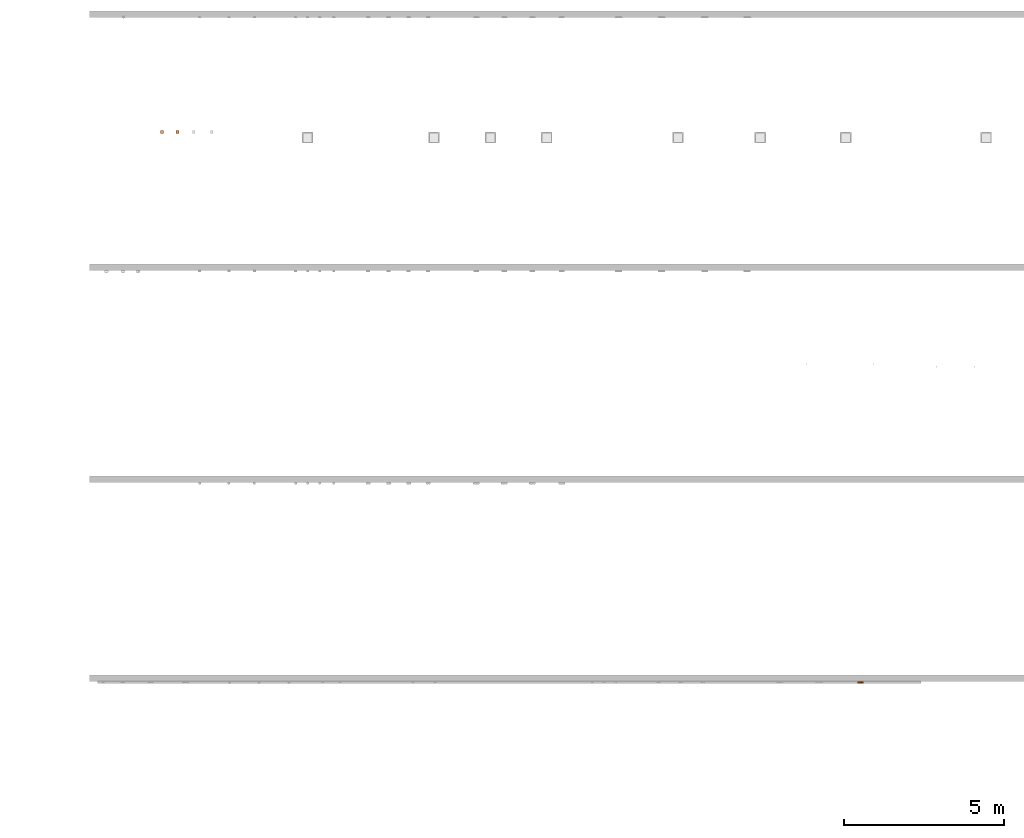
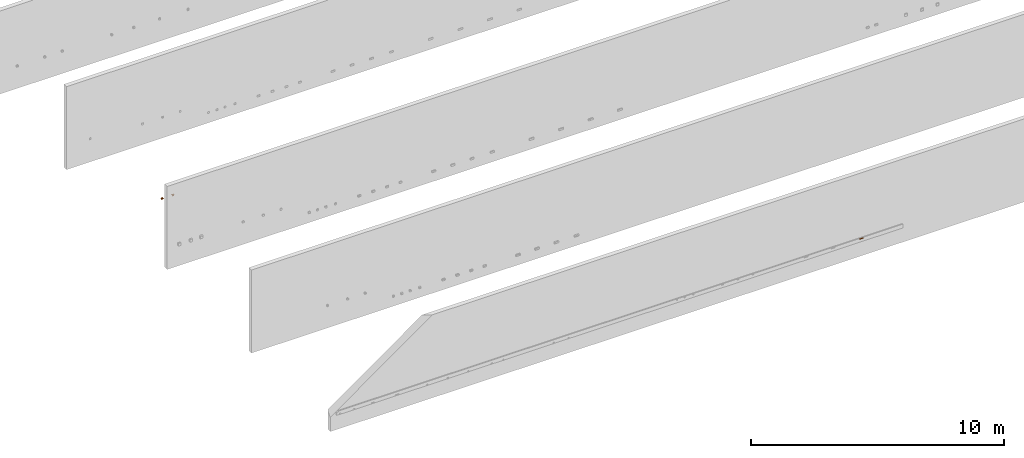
# One storey, part 69 of 197: 3 proxies.
"""IFC2X3 building model written with IfcOpenShell, lengths in metres."""

from ifc_helpers import new_model, entity, si_unit, converted_unit, direction, frame, frame_2d, origin, origin_2d_with_axis, place, context, subcontext, project, spatial, polyline, circle_curve, parameter, trimmed, segment, composite_curve, rectangle, circle, outline, extrude, source, transform, mapped, material, material_list, type_object, type_shapes, element, save


model = new_model("IFC2X3")

# Units and contexts
model_context = context("Model", 3, precision=1e-05, world=origin(), true_north=direction((6.123031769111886e-17, 1.0)))
body_context = subcontext(model_context, "Body", "Model", "MODEL_VIEW")
ifc_project = project(units=[si_unit("LENGTHUNIT", "METRE"), converted_unit("PLANEANGLEUNIT", "DEGREE", entity("IfcPlaneAngleMeasure", 0.017453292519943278), si_unit("PLANEANGLEUNIT", "RADIAN"), dimensions=[0, 0, 0, 0, 0, 0, 0]), si_unit("AREAUNIT", "SQUARE_METRE")], contexts=[model_context])

# Site, building, storey
site_placement = place(None, origin())
site = spatial("IfcSite", under=ifc_project, at=site_placement, Name="Default", CompositionType="ELEMENT")
building_placement = place(site_placement, origin())
building = spatial("IfcBuilding", under=site, at=building_placement, CompositionType="ELEMENT")
storey_placement = place(building_placement, origin())
storey = spatial("IfcBuildingStorey", under=building, at=storey_placement, Name="Niveau 0", CompositionType="ELEMENT", Elevation=0.0)

# Proxies
ifc_material_1 = material(Name="A-ENJOLIVEUR BLANC")
ifc_material_2 = material(Name="<Unnamed>")
ifc_material_list_1 = material_list([ifc_material_1, ifc_material_2])
building_element_proxy_type_1 = type_object("IfcBuildingElementProxyType", Name="Prise simple sol:PCN", PredefinedType="NOTDEFINED", material=ifc_material_list_1)
shared_shape_1 = source(origin(), body_context, "Body", "SweptSolid", [
    extrude(outline(polyline([(-0.043, -0.043000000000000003), (0.043, -0.043000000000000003), (0.043, 0.043000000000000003), (-0.043, 0.043000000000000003), (-0.043, -0.043000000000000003)]), holes=[composite_curve([segment(polyline([(0.0069999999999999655, -0.029499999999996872), (-0.00699999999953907, -0.029499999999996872)]), True, "CONTINUOUS"), segment(polyline([(-0.00699999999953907, -0.029499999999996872), (-0.0069999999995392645, -0.02569999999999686)]), True, "CONTINUOUS"), segment(trimmed(circle_curve(frame_2d((0.0012899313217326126, -0.0025999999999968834), x_axis=(-1.0, 0.0)), 0.024542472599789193), [parameter(289.7416150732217)], [parameter(70.25838492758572)], True, "PARAMETER"), False, "CONTINUOUS"), segment(trimmed(circle_curve(frame_2d((0.0, 0.014821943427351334), x_axis=(-1.0, 0.0)), 0.009013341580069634), [parameter(219.04726896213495)], [parameter(320.95273103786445)], True, "PARAMETER"), False, "CONTINUOUS"), segment(trimmed(circle_curve(frame_2d((-0.0012899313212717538, -0.0025999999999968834), x_axis=(-1.0, 0.0)), 0.024542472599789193), [parameter(109.74161507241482)], [parameter(250.25838492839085)], True, "PARAMETER"), False, "CONTINUOUS"), segment(polyline([(0.006999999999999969, -0.02569999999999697), (0.0069999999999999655, -0.029499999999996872)]), True, "CONTINUOUS")], self_intersect=False)]), frame((0.0, 0.0, 0.0), z_axis=(0.0, 0.0, 1.0), x_axis=(-1.0, 0.0, 0.0)), (0.0, 0.0, 1.0), 0.0006069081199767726),
    extrude(outline(composite_curve([segment(trimmed(circle_curve(frame_2d((0.0, -0.026531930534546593), x_axis=(1.0, 0.0)), 0.008013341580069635), [parameter(219.04726896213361)], [parameter(320.95273104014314)], True, "PARAMETER"), True, "CONTINUOUS"), segment(trimmed(circle_curve(frame_2d((-0.00219188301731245, -0.009080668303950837), x_axis=(1.0, 0.0)), 0.024021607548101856), [parameter(290.506906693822)], [parameter(73.82466715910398)], True, "PARAMETER"), True, "CONTINUOUS"), segment(polyline([(0.004499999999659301, 0.01399001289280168), (0.004499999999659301, 0.01759001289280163)]), True, "CONTINUOUS"), segment(polyline([(0.004499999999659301, 0.01759001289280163), (-0.004499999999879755, 0.01759001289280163)]), True, "CONTINUOUS"), segment(polyline([(-0.004499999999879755, 0.01759001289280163), (-0.0044999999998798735, 0.013990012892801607)]), True, "CONTINUOUS"), segment(trimmed(circle_curve(frame_2d((0.002191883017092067, -0.009080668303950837), x_axis=(1.0, 0.0)), 0.024021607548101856), [parameter(106.17533284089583)], [parameter(249.49309330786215)], True, "PARAMETER"), True, "CONTINUOUS")], self_intersect=False)), frame((0.0, 0.011709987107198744, 0.0)), (0.0, 0.0, 1.0), 0.0006069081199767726),
    extrude(rectangle(XDim=0.041, YDim=0.04100000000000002, at=origin_2d_with_axis()), frame((-0.0005084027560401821, 0.0, -0.0445295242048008), z_axis=(0.0, 0.0, 1.0), x_axis=(-1.0, 0.0, 0.0)), (0.0, 0.0, 1.0), 0.03553643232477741),
    extrude(outline(polyline([(-0.022500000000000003, -0.0225), (0.022500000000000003, -0.0225), (0.022500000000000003, 0.0225), (-0.0225, 0.0225), (-0.022500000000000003, -0.0225)]), holes=[composite_curve([segment(trimmed(circle_curve(origin_2d_with_axis(), 0.019799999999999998), [parameter(179.99999999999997)], [parameter(359.99999999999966)], True, "PARAMETER"), False, "CONTINUOUS"), segment(trimmed(circle_curve(origin_2d_with_axis(), 0.019799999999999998), [parameter(3.5622212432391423e-13)], [parameter(179.99999999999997)], True, "PARAMETER"), False, "CONTINUOUS")], self_intersect=False)]), frame((-0.000508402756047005, 0.0, -0.008993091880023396), z_axis=(0.0, 0.0, 1.0), x_axis=(0.0, 1.0, 0.0)), (0.0, 0.0, 1.0), 0.008993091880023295),
    extrude(outline(composite_curve([segment(trimmed(circle_curve(origin_2d_with_axis(), 0.0195), [parameter(0.0)], [parameter(180.00000000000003)], True, "PARAMETER"), True, "CONTINUOUS"), segment(trimmed(circle_curve(origin_2d_with_axis(), 0.0195), [parameter(180.00000000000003)], [parameter(359.99999999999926)], True, "PARAMETER"), True, "CONTINUOUS")], self_intersect=False), holes=[composite_curve([segment(trimmed(circle_curve(frame_2d((0.011099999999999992, 0.0), x_axis=(1.0, 0.0)), 0.0022), [parameter(179.99999999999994)], [parameter(359.9999999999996)], True, "PARAMETER"), False, "CONTINUOUS"), segment(trimmed(circle_curve(frame_2d((0.011099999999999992, 0.0), x_axis=(1.0, 0.0)), 0.0022), [parameter(3.053332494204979e-13)], [parameter(179.99999999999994)], True, "PARAMETER"), False, "CONTINUOUS")], self_intersect=False), composite_curve([segment(trimmed(circle_curve(frame_2d((0.0, -0.01119999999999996), x_axis=(1.0, 0.0)), 0.0022), [parameter(179.99999999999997)], [parameter(359.9999999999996)], True, "PARAMETER"), False, "CONTINUOUS"), segment(trimmed(circle_curve(frame_2d((0.0, -0.01119999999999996), x_axis=(1.0, 0.0)), 0.0022), [parameter(4.0711099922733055e-13)], [parameter(179.99999999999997)], True, "PARAMETER"), False, "CONTINUOUS")], self_intersect=False), composite_curve([segment(trimmed(circle_curve(frame_2d((0.0, 0.011200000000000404), x_axis=(1.0, 0.0)), 0.0022), [parameter(179.99999999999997)], [parameter(359.99999999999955)], True, "PARAMETER"), False, "CONTINUOUS"), segment(trimmed(circle_curve(frame_2d((0.0, 0.011200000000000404), x_axis=(1.0, 0.0)), 0.0022), [parameter(3.053332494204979e-13)], [parameter(179.99999999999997)], True, "PARAMETER"), False, "CONTINUOUS")], self_intersect=False)]), frame((-0.0005084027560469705, 0.0, -0.008993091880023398), z_axis=(0.0, 0.0, 1.0), x_axis=(0.0, 1.0, 0.0)), (0.0, 0.0, 1.0), 0.008993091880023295),
    extrude(circle(Radius=0.002099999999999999, at=frame_2d((-4.9909850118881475e-45, -9.451293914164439e-18), x_axis=(1.0, 0.0))), frame((-0.000508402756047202, 0.01110000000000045, -0.008993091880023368), z_axis=(0.0, 0.0, 1.0), x_axis=(0.0, 1.0, 0.0)), (0.0, 0.0, 1.0), 0.008993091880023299),
])
type_shapes(building_element_proxy_type_1, [shared_shape_1])
proxy_1_placement = place(storey_placement, frame((-416.3262148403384, 93.73574638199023, 0.0)))
element("IfcBuildingElementProxy", 1, at=proxy_1_placement, inside=storey, type_object=building_element_proxy_type_1, material=ifc_material_list_1, Name="Prise simple sol:PCN", ObjectType="Prise simple sol:PCN", context=body_context, shape_type="MappedRepresentation", body=[
    mapped(shared_shape_1, transform((0.0, 0.0, 0.0), scale=1.0)),
])
building_element_proxy_type_2 = type_object("IfcBuildingElementProxyType", Name="Prise simple sol:PCM", PredefinedType="NOTDEFINED", material=ifc_material_list_1)
shared_shape_2 = source(origin(), body_context, "Body", "SweptSolid", [
    extrude(outline(polyline([(-0.043, -0.043000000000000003), (0.043, -0.043000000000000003), (0.043, 0.043000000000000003), (-0.043, 0.043000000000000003), (-0.043, -0.043000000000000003)]), holes=[composite_curve([segment(polyline([(0.0069999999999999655, -0.029499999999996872), (-0.00699999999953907, -0.029499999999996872)]), True, "CONTINUOUS"), segment(polyline([(-0.00699999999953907, -0.029499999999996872), (-0.0069999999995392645, -0.02569999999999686)]), True, "CONTINUOUS"), segment(trimmed(circle_curve(frame_2d((0.0012899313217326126, -0.0025999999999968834), x_axis=(-1.0, 0.0)), 0.024542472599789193), [parameter(289.7416150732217)], [parameter(70.25838492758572)], True, "PARAMETER"), False, "CONTINUOUS"), segment(trimmed(circle_curve(frame_2d((0.0, 0.014821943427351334), x_axis=(-1.0, 0.0)), 0.009013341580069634), [parameter(219.04726896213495)], [parameter(320.95273103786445)], True, "PARAMETER"), False, "CONTINUOUS"), segment(trimmed(circle_curve(frame_2d((-0.0012899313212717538, -0.0025999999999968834), x_axis=(-1.0, 0.0)), 0.024542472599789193), [parameter(109.74161507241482)], [parameter(250.25838492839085)], True, "PARAMETER"), False, "CONTINUOUS"), segment(polyline([(0.006999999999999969, -0.02569999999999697), (0.0069999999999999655, -0.029499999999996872)]), True, "CONTINUOUS")], self_intersect=False)]), frame((0.0, 0.0, 0.0), z_axis=(0.0, 0.0, 1.0), x_axis=(-1.0, 0.0, 0.0)), (0.0, 0.0, 1.0), 0.0006069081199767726),
    extrude(outline(composite_curve([segment(trimmed(circle_curve(frame_2d((0.0, -0.026531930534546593), x_axis=(1.0, 0.0)), 0.008013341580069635), [parameter(219.04726896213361)], [parameter(320.95273104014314)], True, "PARAMETER"), True, "CONTINUOUS"), segment(trimmed(circle_curve(frame_2d((-0.00219188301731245, -0.009080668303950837), x_axis=(1.0, 0.0)), 0.024021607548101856), [parameter(290.506906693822)], [parameter(73.82466715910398)], True, "PARAMETER"), True, "CONTINUOUS"), segment(polyline([(0.004499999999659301, 0.01399001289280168), (0.004499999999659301, 0.01759001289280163)]), True, "CONTINUOUS"), segment(polyline([(0.004499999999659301, 0.01759001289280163), (-0.004499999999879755, 0.01759001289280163)]), True, "CONTINUOUS"), segment(polyline([(-0.004499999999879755, 0.01759001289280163), (-0.0044999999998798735, 0.013990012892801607)]), True, "CONTINUOUS"), segment(trimmed(circle_curve(frame_2d((0.002191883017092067, -0.009080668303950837), x_axis=(1.0, 0.0)), 0.024021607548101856), [parameter(106.17533284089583)], [parameter(249.49309330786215)], True, "PARAMETER"), True, "CONTINUOUS")], self_intersect=False)), frame((0.0, 0.011709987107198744, 0.0)), (0.0, 0.0, 1.0), 0.0006069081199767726),
    extrude(rectangle(XDim=0.041, YDim=0.04100000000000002, at=origin_2d_with_axis()), frame((-0.0005084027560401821, 0.0, -0.0445295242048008), z_axis=(0.0, 0.0, 1.0), x_axis=(-1.0, 0.0, 0.0)), (0.0, 0.0, 1.0), 0.03553643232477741),
    extrude(outline(polyline([(-0.022500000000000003, -0.0225), (0.022500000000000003, -0.0225), (0.022500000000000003, 0.0225), (-0.0225, 0.0225), (-0.022500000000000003, -0.0225)]), holes=[composite_curve([segment(trimmed(circle_curve(origin_2d_with_axis(), 0.019799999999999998), [parameter(179.99999999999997)], [parameter(359.99999999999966)], True, "PARAMETER"), False, "CONTINUOUS"), segment(trimmed(circle_curve(origin_2d_with_axis(), 0.019799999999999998), [parameter(3.5622212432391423e-13)], [parameter(179.99999999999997)], True, "PARAMETER"), False, "CONTINUOUS")], self_intersect=False)]), frame((-0.000508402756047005, 0.0, -0.008993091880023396), z_axis=(0.0, 0.0, 1.0), x_axis=(0.0, 1.0, 0.0)), (0.0, 0.0, 1.0), 0.008993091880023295),
    extrude(outline(composite_curve([segment(trimmed(circle_curve(origin_2d_with_axis(), 0.0195), [parameter(0.0)], [parameter(180.00000000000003)], True, "PARAMETER"), True, "CONTINUOUS"), segment(trimmed(circle_curve(origin_2d_with_axis(), 0.0195), [parameter(180.00000000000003)], [parameter(359.99999999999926)], True, "PARAMETER"), True, "CONTINUOUS")], self_intersect=False), holes=[composite_curve([segment(trimmed(circle_curve(frame_2d((0.011099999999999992, 0.0), x_axis=(1.0, 0.0)), 0.0022), [parameter(179.99999999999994)], [parameter(359.9999999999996)], True, "PARAMETER"), False, "CONTINUOUS"), segment(trimmed(circle_curve(frame_2d((0.011099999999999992, 0.0), x_axis=(1.0, 0.0)), 0.0022), [parameter(3.053332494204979e-13)], [parameter(179.99999999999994)], True, "PARAMETER"), False, "CONTINUOUS")], self_intersect=False), composite_curve([segment(trimmed(circle_curve(frame_2d((0.0, -0.01119999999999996), x_axis=(1.0, 0.0)), 0.0022), [parameter(179.99999999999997)], [parameter(359.9999999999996)], True, "PARAMETER"), False, "CONTINUOUS"), segment(trimmed(circle_curve(frame_2d((0.0, -0.01119999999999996), x_axis=(1.0, 0.0)), 0.0022), [parameter(4.0711099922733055e-13)], [parameter(179.99999999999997)], True, "PARAMETER"), False, "CONTINUOUS")], self_intersect=False), composite_curve([segment(trimmed(circle_curve(frame_2d((0.0, 0.011200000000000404), x_axis=(1.0, 0.0)), 0.0022), [parameter(179.99999999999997)], [parameter(359.99999999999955)], True, "PARAMETER"), False, "CONTINUOUS"), segment(trimmed(circle_curve(frame_2d((0.0, 0.011200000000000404), x_axis=(1.0, 0.0)), 0.0022), [parameter(3.053332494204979e-13)], [parameter(179.99999999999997)], True, "PARAMETER"), False, "CONTINUOUS")], self_intersect=False)]), frame((-0.0005084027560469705, 0.0, -0.008993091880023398), z_axis=(0.0, 0.0, 1.0), x_axis=(0.0, 1.0, 0.0)), (0.0, 0.0, 1.0), 0.008993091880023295),
    extrude(circle(Radius=0.002099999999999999, at=frame_2d((-4.9909850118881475e-45, -9.451293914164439e-18), x_axis=(1.0, 0.0))), frame((-0.000508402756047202, 0.01110000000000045, -0.008993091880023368), z_axis=(0.0, 0.0, 1.0), x_axis=(0.0, 1.0, 0.0)), (0.0, 0.0, 1.0), 0.008993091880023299),
])
type_shapes(building_element_proxy_type_2, [shared_shape_2])
proxy_2_placement = place(storey_placement, frame((-416.81621484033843, 93.73574638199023, 0.0)))
element("IfcBuildingElementProxy", 2, at=proxy_2_placement, inside=storey, type_object=building_element_proxy_type_2, material=ifc_material_list_1, Name="Prise simple sol:PCM", ObjectType="Prise simple sol:PCM", context=body_context, shape_type="MappedRepresentation", body=[
    mapped(shared_shape_2, transform((0.0, 0.0, 0.0), scale=1.0)),
])
ifc_material_3 = material(Name="BETCE-PCO-ROUGE")
ifc_material_list_2 = material_list([ifc_material_2, ifc_material_3])
building_element_proxy_type_3 = type_object("IfcBuildingElementProxyType", Name="Prise quadruple goulotte horizontale:PCO", PredefinedType="NOTDEFINED", material=ifc_material_list_2)
shared_shape_3 = source(origin(), body_context, "Body", "SweptSolid", [
    extrude(rectangle(XDim=0.02900000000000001, YDim=0.040999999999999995, at=frame_2d((8.673617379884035e-19, -3.469446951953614e-18), x_axis=(1.0, 0.0))), frame((0.06745922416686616, 0.014506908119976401, -0.02050000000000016), z_axis=(0.0, 0.0, 1.0), x_axis=(0.0, 1.0, 0.0)), (0.0, 0.0, 1.0), 0.041),
    extrude(outline(polyline([(-0.022500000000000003, -0.022500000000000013), (0.022500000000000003, -0.022500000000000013), (0.022500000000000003, 0.022500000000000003), (-0.0225, 0.022500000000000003), (-0.022500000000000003, -0.022500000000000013)]), holes=[composite_curve([segment(trimmed(circle_curve(frame_2d((0.0, 0.0), x_axis=(0.0, 1.0)), 0.019799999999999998), [parameter(179.99999999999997)], [parameter(359.99999999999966)], True, "PARAMETER"), False, "CONTINUOUS"), segment(trimmed(circle_curve(frame_2d((0.0, 0.0), x_axis=(0.0, 1.0)), 0.019799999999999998), [parameter(3.5622212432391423e-13)], [parameter(179.99999999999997)], True, "PARAMETER"), False, "CONTINUOUS")], self_intersect=False)]), frame((0.06745922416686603, -0.00899309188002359, 0.0), z_axis=(0.0, 1.0, 0.0), x_axis=(0.0, 0.0, 1.0)), (0.0, 0.0, 1.0), 0.008993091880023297),
    extrude(outline(composite_curve([segment(trimmed(circle_curve(origin_2d_with_axis(), 0.0195), [parameter(3.5622212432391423e-13)], [parameter(180.00000000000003)], True, "PARAMETER"), True, "CONTINUOUS"), segment(trimmed(circle_curve(origin_2d_with_axis(), 0.0195), [parameter(180.00000000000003)], [parameter(359.99999999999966)], True, "PARAMETER"), True, "CONTINUOUS")], self_intersect=False), holes=[composite_curve([segment(trimmed(circle_curve(frame_2d((0.0, -0.01110000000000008), x_axis=(1.0, 0.0)), 0.0022), [parameter(179.9999999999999)], [parameter(359.9999999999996)], True, "PARAMETER"), False, "CONTINUOUS"), segment(trimmed(circle_curve(frame_2d((0.0, -0.01110000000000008), x_axis=(1.0, 0.0)), 0.0022), [parameter(4.0711099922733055e-13)], [parameter(179.99999999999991)], True, "PARAMETER"), False, "CONTINUOUS")], self_intersect=False), composite_curve([segment(trimmed(circle_curve(frame_2d((0.011200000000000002, 0.0), x_axis=(1.0, 0.0)), 0.0022), [parameter(179.99999999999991)], [parameter(359.99999999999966)], True, "PARAMETER"), False, "CONTINUOUS"), segment(trimmed(circle_curve(frame_2d((0.011200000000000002, 0.0), x_axis=(1.0, 0.0)), 0.0022), [parameter(3.5622212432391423e-13)], [parameter(179.99999999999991)], True, "PARAMETER"), False, "CONTINUOUS")], self_intersect=False), composite_curve([segment(trimmed(circle_curve(frame_2d((-0.01119999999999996, 0.0), x_axis=(1.0, 0.0)), 0.0022), [parameter(179.99999999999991)], [parameter(359.99999999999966)], True, "PARAMETER"), False, "CONTINUOUS"), segment(trimmed(circle_curve(frame_2d((-0.01119999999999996, 0.0), x_axis=(1.0, 0.0)), 0.0022), [parameter(3.5622212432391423e-13)], [parameter(179.99999999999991)], True, "PARAMETER"), False, "CONTINUOUS")], self_intersect=False)]), frame((0.0674592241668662, -0.00899309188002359, 0.0), z_axis=(0.0, 1.0, 0.0), x_axis=(1.0, 0.0, 0.0)), (0.0, 0.0, 1.0), 0.008993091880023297),
    extrude(circle(Radius=0.002099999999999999, at=frame_2d((0.0, -8.459899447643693e-18), x_axis=(1.0, 0.0))), frame((0.06745922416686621, -0.008993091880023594, 0.011099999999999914), z_axis=(0.0, 1.0, 0.0), x_axis=(1.0, 0.0, 0.0)), (0.0, 0.0, 1.0), 0.008993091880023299),
    extrude(rectangle(XDim=0.02900690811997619, YDim=0.041, at=frame_2d((8.673617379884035e-19, 0.0), x_axis=(1.0, 0.0))), frame((-0.06754077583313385, 0.014503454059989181, -0.020500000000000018), z_axis=(0.0, 0.0, 1.0), x_axis=(0.0, 1.0, 0.0)), (0.0, 0.0, 1.0), 0.041),
    extrude(outline(polyline([(-0.022500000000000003, -0.022499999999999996), (0.022500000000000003, -0.022499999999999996), (0.022500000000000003, 0.022500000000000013), (-0.0225, 0.022500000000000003), (-0.022500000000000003, -0.022499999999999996)]), holes=[composite_curve([segment(trimmed(circle_curve(frame_2d((0.0, 0.0), x_axis=(0.0, 1.0)), 0.019799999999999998), [parameter(179.99999999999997)], [parameter(359.99999999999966)], True, "PARAMETER"), False, "CONTINUOUS"), segment(trimmed(circle_curve(frame_2d((0.0, 0.0), x_axis=(0.0, 1.0)), 0.019799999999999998), [parameter(3.5622212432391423e-13)], [parameter(179.99999999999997)], True, "PARAMETER"), False, "CONTINUOUS")], self_intersect=False)]), frame((-0.067540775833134, -0.00899309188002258, 0.0), z_axis=(0.0, 1.0, 0.0), x_axis=(0.0, 0.0, 1.0)), (0.0, 0.0, 1.0), 0.008993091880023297),
    extrude(outline(composite_curve([segment(trimmed(circle_curve(origin_2d_with_axis(), 0.0195), [parameter(3.5622212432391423e-13)], [parameter(180.00000000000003)], True, "PARAMETER"), True, "CONTINUOUS"), segment(trimmed(circle_curve(origin_2d_with_axis(), 0.0195), [parameter(180.00000000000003)], [parameter(359.99999999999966)], True, "PARAMETER"), True, "CONTINUOUS")], self_intersect=False), holes=[composite_curve([segment(trimmed(circle_curve(frame_2d((0.0, -0.01110000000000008), x_axis=(1.0, 0.0)), 0.0022), [parameter(179.9999999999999)], [parameter(359.9999999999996)], True, "PARAMETER"), False, "CONTINUOUS"), segment(trimmed(circle_curve(frame_2d((0.0, -0.01110000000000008), x_axis=(1.0, 0.0)), 0.0022), [parameter(4.0711099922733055e-13)], [parameter(179.99999999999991)], True, "PARAMETER"), False, "CONTINUOUS")], self_intersect=False), composite_curve([segment(trimmed(circle_curve(frame_2d((0.011199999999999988, 0.0), x_axis=(1.0, 0.0)), 0.0022), [parameter(179.99999999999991)], [parameter(359.99999999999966)], True, "PARAMETER"), False, "CONTINUOUS"), segment(trimmed(circle_curve(frame_2d((0.011199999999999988, 0.0), x_axis=(1.0, 0.0)), 0.0022), [parameter(3.5622212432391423e-13)], [parameter(179.99999999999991)], True, "PARAMETER"), False, "CONTINUOUS")], self_intersect=False), composite_curve([segment(trimmed(circle_curve(frame_2d((-0.01119999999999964, 0.0), x_axis=(1.0, 0.0)), 0.0022), [parameter(179.99999999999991)], [parameter(359.99999999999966)], True, "PARAMETER"), False, "CONTINUOUS"), segment(trimmed(circle_curve(frame_2d((-0.01119999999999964, 0.0), x_axis=(1.0, 0.0)), 0.0022), [parameter(3.5622212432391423e-13)], [parameter(179.99999999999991)], True, "PARAMETER"), False, "CONTINUOUS")], self_intersect=False)]), frame((-0.0675407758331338, -0.00899309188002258, 0.0), z_axis=(0.0, 1.0, 0.0), x_axis=(1.0, 0.0, 0.0)), (0.0, 0.0, 1.0), 0.008993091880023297),
    extrude(circle(Radius=0.002099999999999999, at=frame_2d((0.0, -8.459899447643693e-18), x_axis=(1.0, 0.0))), frame((-0.06754077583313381, -0.008993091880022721, 0.011100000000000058), z_axis=(0.0, 1.0, 0.0), x_axis=(1.0, 0.0, 0.0)), (0.0, 0.0, 1.0), 0.008993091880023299),
    extrude(circle(Radius=0.002099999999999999, at=frame_2d((0.0, -8.459899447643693e-18), x_axis=(1.0, 0.0))), frame((0.022459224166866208, -0.008993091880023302, 0.011100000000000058), z_axis=(0.0, 1.0, 0.0), x_axis=(1.0, 0.0, 0.0)), (0.0, 0.0, 1.0), 0.008993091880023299),
    extrude(rectangle(XDim=0.02900000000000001, YDim=0.041, at=frame_2d((8.673617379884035e-19, 0.0), x_axis=(1.0, 0.0))), frame((0.022459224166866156, 0.014506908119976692, -0.020500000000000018), z_axis=(0.0, 0.0, 1.0), x_axis=(0.0, 1.0, 0.0)), (0.0, 0.0, 1.0), 0.041),
    extrude(outline(polyline([(-0.022500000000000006, -0.022500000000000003), (0.022500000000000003, -0.022500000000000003), (0.022500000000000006, 0.022500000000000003), (-0.0225, 0.0225), (-0.022500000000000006, -0.022500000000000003)]), holes=[composite_curve([segment(trimmed(circle_curve(frame_2d((0.0, 0.0), x_axis=(0.0, 1.0)), 0.019799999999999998), [parameter(179.99999999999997)], [parameter(359.99999999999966)], True, "PARAMETER"), False, "CONTINUOUS"), segment(trimmed(circle_curve(frame_2d((0.0, 0.0), x_axis=(0.0, 1.0)), 0.019799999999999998), [parameter(3.5622212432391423e-13)], [parameter(179.99999999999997)], True, "PARAMETER"), False, "CONTINUOUS")], self_intersect=False)]), frame((0.02245922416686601, -0.0089930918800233, 0.0), z_axis=(0.0, 1.0, 0.0), x_axis=(0.0, 0.0, 1.0)), (0.0, 0.0, 1.0), 0.008993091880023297),
    extrude(outline(composite_curve([segment(trimmed(circle_curve(origin_2d_with_axis(), 0.0195), [parameter(3.5622212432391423e-13)], [parameter(180.00000000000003)], True, "PARAMETER"), True, "CONTINUOUS"), segment(trimmed(circle_curve(origin_2d_with_axis(), 0.0195), [parameter(180.00000000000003)], [parameter(359.99999999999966)], True, "PARAMETER"), True, "CONTINUOUS")], self_intersect=False), holes=[composite_curve([segment(trimmed(circle_curve(frame_2d((0.0, -0.01110000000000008), x_axis=(1.0, 0.0)), 0.0022), [parameter(179.9999999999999)], [parameter(359.9999999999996)], True, "PARAMETER"), False, "CONTINUOUS"), segment(trimmed(circle_curve(frame_2d((0.0, -0.01110000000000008), x_axis=(1.0, 0.0)), 0.0022), [parameter(4.0711099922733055e-13)], [parameter(179.99999999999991)], True, "PARAMETER"), False, "CONTINUOUS")], self_intersect=False), composite_curve([segment(trimmed(circle_curve(frame_2d((0.011199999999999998, 0.0), x_axis=(1.0, 0.0)), 0.0022), [parameter(179.99999999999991)], [parameter(359.99999999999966)], True, "PARAMETER"), False, "CONTINUOUS"), segment(trimmed(circle_curve(frame_2d((0.011199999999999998, 0.0), x_axis=(1.0, 0.0)), 0.0022), [parameter(3.5622212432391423e-13)], [parameter(179.99999999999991)], True, "PARAMETER"), False, "CONTINUOUS")], self_intersect=False), composite_curve([segment(trimmed(circle_curve(frame_2d((-0.011199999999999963, 0.0), x_axis=(1.0, 0.0)), 0.0022), [parameter(179.99999999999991)], [parameter(359.99999999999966)], True, "PARAMETER"), False, "CONTINUOUS"), segment(trimmed(circle_curve(frame_2d((-0.011199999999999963, 0.0), x_axis=(1.0, 0.0)), 0.0022), [parameter(3.5622212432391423e-13)], [parameter(179.99999999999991)], True, "PARAMETER"), False, "CONTINUOUS")], self_intersect=False)]), frame((0.02245922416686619, -0.0089930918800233, 0.0), z_axis=(0.0, 1.0, 0.0), x_axis=(1.0, 0.0, 0.0)), (0.0, 0.0, 1.0), 0.008993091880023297),
    extrude(circle(Radius=0.002099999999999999, at=frame_2d((0.0, -8.459899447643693e-18), x_axis=(1.0, 0.0))), frame((-0.0225407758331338, -0.008993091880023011, 0.011100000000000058), z_axis=(0.0, 1.0, 0.0), x_axis=(1.0, 0.0, 0.0)), (0.0, 0.0, 1.0), 0.008993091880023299),
    extrude(rectangle(XDim=0.02900690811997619, YDim=0.041, at=frame_2d((-8.673617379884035e-19, 0.0), x_axis=(1.0, 0.0))), frame((-0.022540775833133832, 0.014503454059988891, -0.020500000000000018), z_axis=(0.0, 0.0, 1.0), x_axis=(0.0, 1.0, 0.0)), (0.0, 0.0, 1.0), 0.041),
    extrude(outline(polyline([(-0.022500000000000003, -0.022500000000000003), (0.022500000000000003, -0.022500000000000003), (0.022500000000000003, 0.022500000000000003), (-0.0225, 0.022500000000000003), (-0.022500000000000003, -0.022500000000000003)]), holes=[composite_curve([segment(trimmed(circle_curve(frame_2d((0.0, 0.0), x_axis=(0.0, 1.0)), 0.019799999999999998), [parameter(179.99999999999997)], [parameter(359.99999999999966)], True, "PARAMETER"), False, "CONTINUOUS"), segment(trimmed(circle_curve(frame_2d((0.0, 0.0), x_axis=(0.0, 1.0)), 0.019799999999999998), [parameter(3.5622212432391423e-13)], [parameter(179.99999999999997)], True, "PARAMETER"), False, "CONTINUOUS")], self_intersect=False)]), frame((-0.022540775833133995, -0.00899309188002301, 0.0), z_axis=(0.0, 1.0, 0.0), x_axis=(0.0, 0.0, 1.0)), (0.0, 0.0, 1.0), 0.008993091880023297),
    extrude(outline(composite_curve([segment(trimmed(circle_curve(origin_2d_with_axis(), 0.0195), [parameter(3.5622212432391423e-13)], [parameter(180.00000000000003)], True, "PARAMETER"), True, "CONTINUOUS"), segment(trimmed(circle_curve(origin_2d_with_axis(), 0.0195), [parameter(180.00000000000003)], [parameter(359.99999999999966)], True, "PARAMETER"), True, "CONTINUOUS")], self_intersect=False), holes=[composite_curve([segment(trimmed(circle_curve(frame_2d((0.0, -0.01110000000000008), x_axis=(1.0, 0.0)), 0.0022), [parameter(179.9999999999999)], [parameter(359.9999999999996)], True, "PARAMETER"), False, "CONTINUOUS"), segment(trimmed(circle_curve(frame_2d((0.0, -0.01110000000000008), x_axis=(1.0, 0.0)), 0.0022), [parameter(4.0711099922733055e-13)], [parameter(179.99999999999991)], True, "PARAMETER"), False, "CONTINUOUS")], self_intersect=False), composite_curve([segment(trimmed(circle_curve(frame_2d((0.011199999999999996, 0.0), x_axis=(1.0, 0.0)), 0.0022), [parameter(179.99999999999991)], [parameter(359.99999999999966)], True, "PARAMETER"), False, "CONTINUOUS"), segment(trimmed(circle_curve(frame_2d((0.011199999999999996, 0.0), x_axis=(1.0, 0.0)), 0.0022), [parameter(3.5622212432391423e-13)], [parameter(179.99999999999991)], True, "PARAMETER"), False, "CONTINUOUS")], self_intersect=False), composite_curve([segment(trimmed(circle_curve(frame_2d((-0.011199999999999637, 0.0), x_axis=(1.0, 0.0)), 0.0022), [parameter(179.99999999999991)], [parameter(359.99999999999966)], True, "PARAMETER"), False, "CONTINUOUS"), segment(trimmed(circle_curve(frame_2d((-0.011199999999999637, 0.0), x_axis=(1.0, 0.0)), 0.0022), [parameter(3.5622212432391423e-13)], [parameter(179.99999999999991)], True, "PARAMETER"), False, "CONTINUOUS")], self_intersect=False)]), frame((-0.0225407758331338, -0.00899309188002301, 0.0), z_axis=(0.0, 1.0, 0.0), x_axis=(1.0, 0.0, 0.0)), (0.0, 0.0, 1.0), 0.008993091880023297),
])
type_shapes(building_element_proxy_type_3, [shared_shape_3])
proxy_3_placement = place(storey_placement, frame((-394.91944850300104, 76.46896719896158, 0.8693246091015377)))
element("IfcBuildingElementProxy", 3, at=proxy_3_placement, inside=storey, type_object=building_element_proxy_type_3, material=ifc_material_list_2, Name="Prise quadruple goulotte horizontale:PCO", ObjectType="Prise quadruple goulotte horizontale:PCO", context=body_context, shape_type="MappedRepresentation", body=[
    mapped(shared_shape_3, transform((0.0, 0.0, 0.0), scale=1.0)),
])

save(model, "model.ifc")
